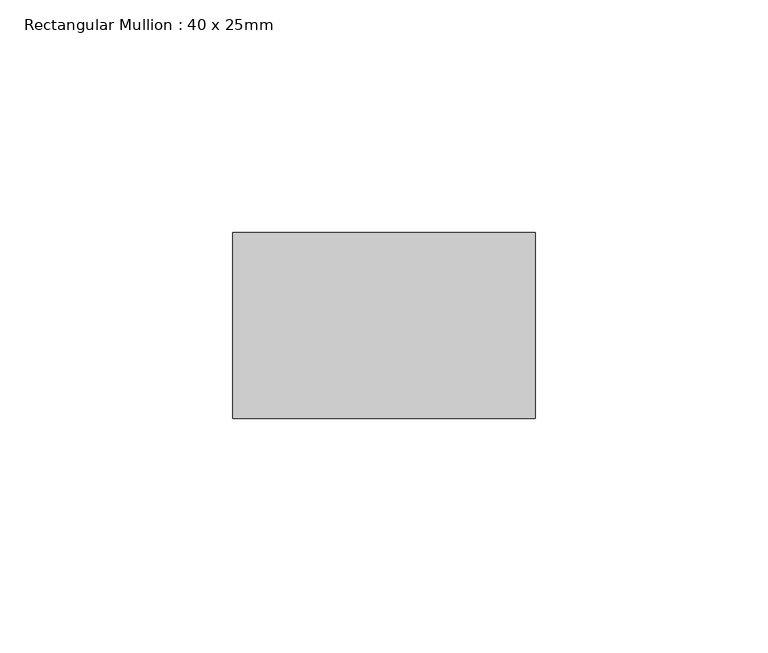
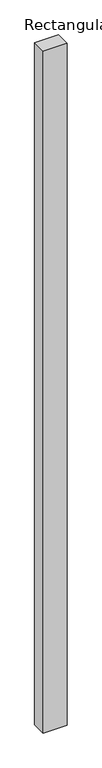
"""IFC4 building model written with IfcOpenShell, lengths in millimetres: member geometry, Rectangular Mullion : 40 x 25mm."""

from ifc_helpers import new_model, si_unit, frame, origin, place, context, project, spatial, polyline, outline, extrude, source, transform, mapped, element, save


def rectangular_mullion_40_x_25mm_d9ce93c3(model_context):
    return source(origin(), model_context, "Body", "SweptSolid", [
        extrude(outline(polyline([(0.0, -20.0), (0.0, -60.0), (-65.0, -60.0), (-65.0, -20.0), (0.0, -20.0)])), frame((0.0, 0.0, -1950.0), z_axis=(0.0, 0.0, 1.0), x_axis=(1.0, 0.0, 0.0)), (0.0, 0.0, 1.0), 1950.0),
    ])


if __name__ == "__main__":
    model = new_model("IFC4")
    model_context = context("Model", 3, world=origin())
    ifc_project = project(units=[si_unit("LENGTHUNIT", "METRE", prefix="MILLI")], contexts=[model_context])
    site = spatial("IfcSite", under=ifc_project)
    building = spatial("IfcBuilding", under=site)
    placement = place(None, origin())
    rectangular_mullion_40_x_25mm_shape = rectangular_mullion_40_x_25mm_d9ce93c3(model_context)
    element("IfcMember", 1, ObjectType="Rectangular Mullion : 40 x 25mm", at=placement, inside=building, context=model_context, shape_type="MappedRepresentation", body=[
        mapped(rectangular_mullion_40_x_25mm_shape, transform((0.0, 0.0, 0.0), x_axis=(1.0, 0.0, 0.0), y_axis=(0.0, 1.0, 0.0), z_axis=(0.0, 0.0, 1.0))),
    ])
    save(model, "model.ifc")
